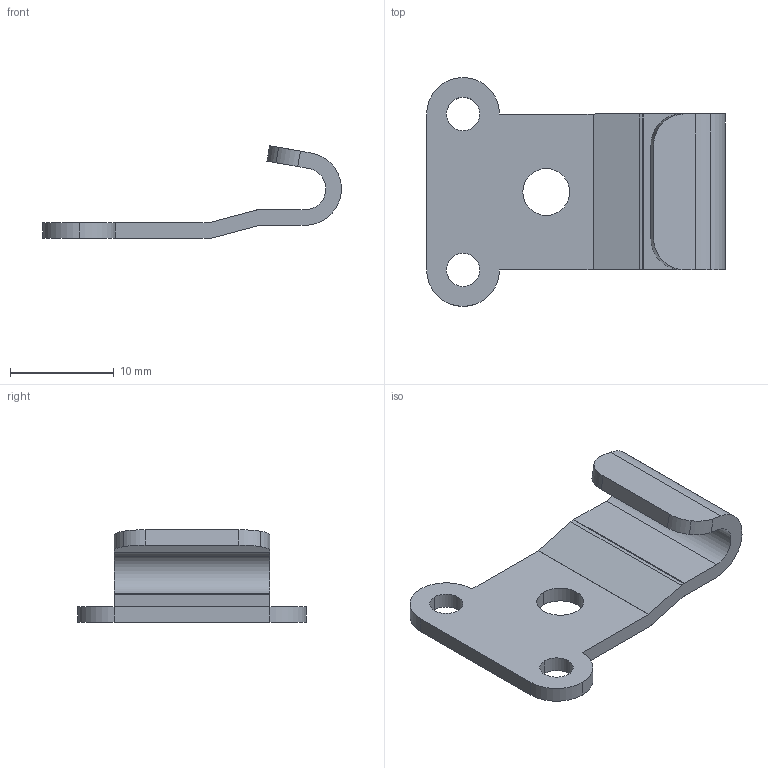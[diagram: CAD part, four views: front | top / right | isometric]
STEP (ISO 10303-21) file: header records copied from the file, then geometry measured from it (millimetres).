
FILE_DESCRIPTION((''),'2;1');
FILE_NAME('6605.06._.stp','2019-02-27T10:30:21',(''),(''),'Mechanical Desktop 2006','Mechanical Desktop 2006',', , ');
FILE_SCHEMA(('AUTOMOTIVE_DESIGN { 1 2 10303 214 0 1 1 1 }'));
Length unit declared in the file: millimetre
Products named in the file (2): 6605.__; TEIL1
Assembly tree (1 placements, depth 2):
  6605.__
    TEIL1
Bounding box: 28.72 x 22 x 8.9 mm (x, y, z)
Volume: 850.4 mm3; surface area: 1351.1 mm2
Topology: 1 solids, 1 shells, 38 faces, 108 edges, 72 vertices
Faces by surface type: cylinder 26, plane 12
Entity records: 1387 total; most frequent: DIRECTION 240, CARTESIAN_POINT 223, ORIENTED_EDGE 216, EDGE_CURVE 108, AXIS2_PLACEMENT_3D 92, VERTEX_POINT 72, VECTOR 56, LINE 56
